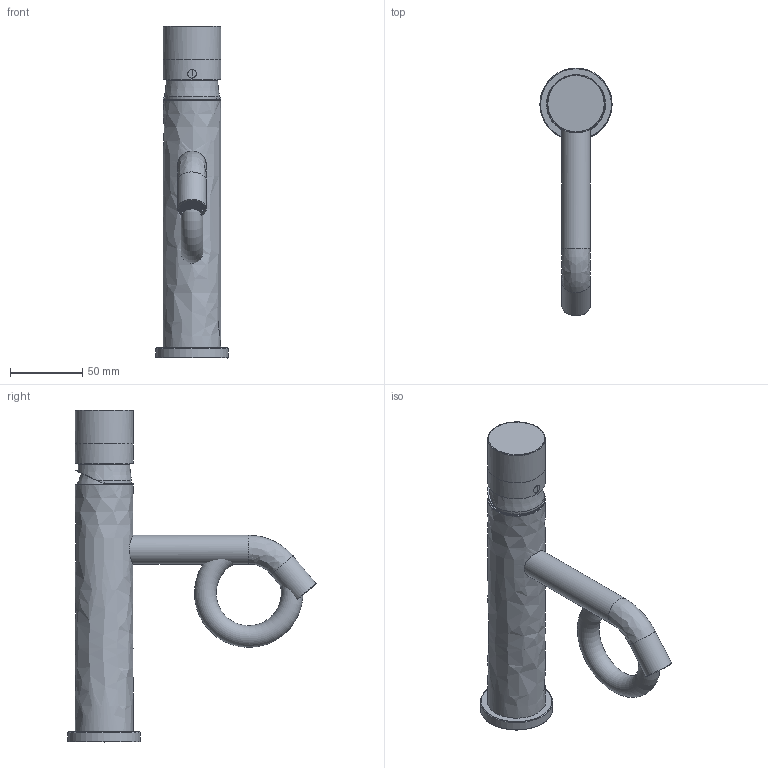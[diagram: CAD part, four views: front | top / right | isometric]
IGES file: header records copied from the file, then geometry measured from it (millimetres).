
Start section: Data from Parasolid IGES Translator 22.0.50, Copyright(c) 2006 Siemens P LM Software. All Rights Reserved.
Global section: file name: noorth-taps-H 5 D 17,2 W 22,6_5837.igs; native system: By Siemens PLM Incorporated; preprocessor: XPlus GENERIC/IGES 22.0.50; author: Noname; organization: Noname; date: 20260106.171315; units: metre
Bounding box: 50 x 171.56 x 229.5 mm (x, y, z)
Volume: 107307.8 mm3; surface area: 82639.9 mm2
Topology: 4 solids, 4 shells, 425 faces, 1314 edges, 1056 vertices
Faces by surface type: plane 166, cylinder 139, bspline 77, revolution 27, extrusion 10, cone 3, torus 3
Full cylindrical faces by diameter (mm): 1 x52, 13.5 x1, 14.5 x1, 15 x3, 16.5 x1, 20 x2, 23.6 x1, 30 x1, 37 x1, 40 x2
